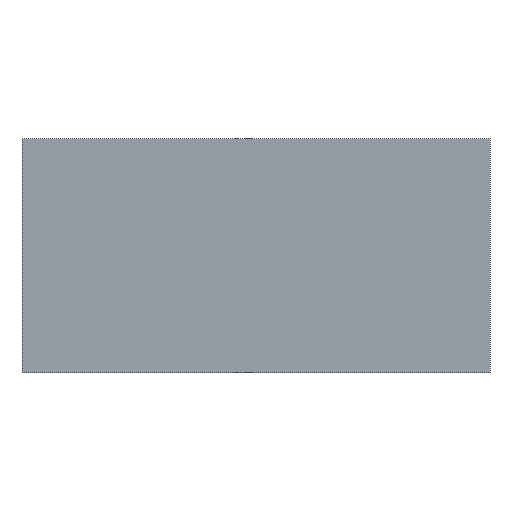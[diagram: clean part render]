
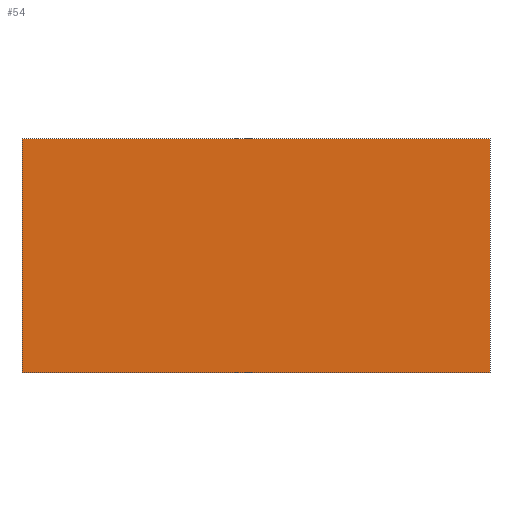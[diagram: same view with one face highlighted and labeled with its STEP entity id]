
A CAD part, front view. The second image highlights one B-rep face of the part: STEP entity #54.
In plain terms, the highlighted planar face has unit normal (0, -1, 0).
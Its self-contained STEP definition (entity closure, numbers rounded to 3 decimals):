
#54 = ADVANCED_FACE( '', ( #108 ), #109, .F. );
#108 = FACE_OUTER_BOUND( '', #155, .T. );
#109 = PLANE( '', #156 );
#155 = EDGE_LOOP( '', ( #231, #232, #233, #234 ) );
#156 = AXIS2_PLACEMENT_3D( '', #235, #236, #237 );
#231 = ORIENTED_EDGE( '', *, *, #286, .T. );
#232 = ORIENTED_EDGE( '', *, *, #277, .F. );
#233 = ORIENTED_EDGE( '', *, *, #283, .F. );
#234 = ORIENTED_EDGE( '', *, *, #258, .T. );
#235 = CARTESIAN_POINT( '', ( 42., -16., 6. ) );
#236 = DIRECTION( '', ( 0., 1., 0. ) );
#237 = DIRECTION( '', ( 0., 0., 1. ) );
#258 = EDGE_CURVE( '', #294, #292, #295, .T. );
#277 = EDGE_CURVE( '', #324, #319, #326, .T. );
#283 = EDGE_CURVE( '', #294, #324, #333, .T. );
#286 = EDGE_CURVE( '', #292, #319, #336, .T. );
#292 = VERTEX_POINT( '', #342 );
#294 = VERTEX_POINT( '', #345 );
#295 = LINE( '', #346, #347 );
#319 = VERTEX_POINT( '', #379 );
#324 = VERTEX_POINT( '', #386 );
#326 = LINE( '', #389, #390 );
#333 = LINE( '', #397, #398 );
#336 = LINE( '', #402, #403 );
#342 = CARTESIAN_POINT( '', ( -10., -16., 6. ) );
#345 = CARTESIAN_POINT( '', ( 42., -16., 6. ) );
#346 = CARTESIAN_POINT( '', ( 42., -16., 6. ) );
#347 = VECTOR( '', #409, 1000. );
#379 = CARTESIAN_POINT( '', ( -10., -16., -20. ) );
#386 = CARTESIAN_POINT( '', ( 42., -16., -20. ) );
#389 = CARTESIAN_POINT( '', ( 42., -16., -20. ) );
#390 = VECTOR( '', #430, 1000. );
#397 = CARTESIAN_POINT( '', ( 42., -16., 6. ) );
#398 = VECTOR( '', #434, 1000. );
#402 = CARTESIAN_POINT( '', ( -10., -16., 6. ) );
#403 = VECTOR( '', #436, 1000. );
#409 = DIRECTION( '', ( -1., 0., 0. ) );
#430 = DIRECTION( '', ( -1., 0., 0. ) );
#434 = DIRECTION( '', ( 0., 0., -1. ) );
#436 = DIRECTION( '', ( 0., 0., -1. ) );
